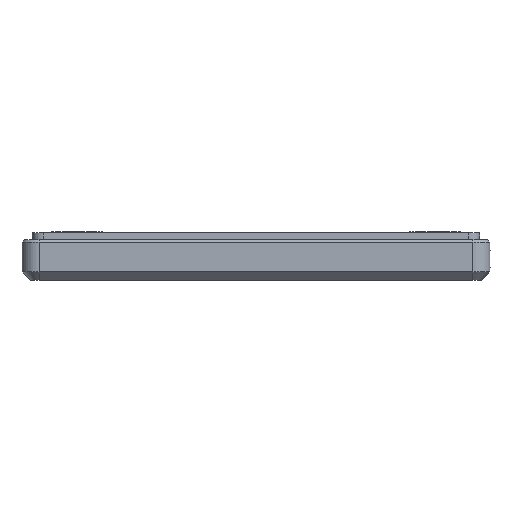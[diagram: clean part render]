
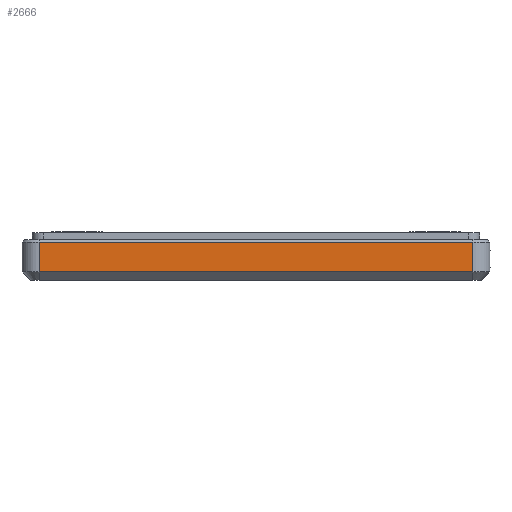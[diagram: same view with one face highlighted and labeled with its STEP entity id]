
A CAD part, left-side view. The second image highlights one B-rep face of the part: STEP entity #2666.
In plain terms, the highlighted planar face has unit normal (-1, 0, 0).
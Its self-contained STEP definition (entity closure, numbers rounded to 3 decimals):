
#277=FACE_OUTER_BOUND('',#428,.T.);
#428=EDGE_LOOP('',(#2149,#2150,#2151,#2152));
#666=LINE('',#4320,#950);
#671=LINE('',#4341,#955);
#673=LINE('',#4347,#957);
#674=LINE('',#4348,#958);
#950=VECTOR('',#3497,10.);
#955=VECTOR('',#3524,10.);
#957=VECTOR('',#3530,10.);
#958=VECTOR('',#3531,10.);
#1239=VERTEX_POINT('',#4310);
#1241=VERTEX_POINT('',#4316);
#1247=VERTEX_POINT('',#4340);
#1249=VERTEX_POINT('',#4346);
#1570=EDGE_CURVE('',#1239,#1241,#666,.T.);
#1581=EDGE_CURVE('',#1241,#1247,#671,.T.);
#1584=EDGE_CURVE('',#1239,#1249,#673,.T.);
#1585=EDGE_CURVE('',#1247,#1249,#674,.T.);
#2149=ORIENTED_EDGE('',*,*,#1570,.F.);
#2150=ORIENTED_EDGE('',*,*,#1584,.T.);
#2151=ORIENTED_EDGE('',*,*,#1585,.F.);
#2152=ORIENTED_EDGE('',*,*,#1581,.F.);
#2536=PLANE('',#2915);
#2666=ADVANCED_FACE('',(#277),#2536,.T.);
#2915=AXIS2_PLACEMENT_3D('',#4345,#3528,#3529);
#3497=DIRECTION('',(0.,1.,0.));
#3524=DIRECTION('',(0.,0.,1.));
#3528=DIRECTION('center_axis',(-1.,0.,0.));
#3529=DIRECTION('ref_axis',(0.,-1.,0.));
#3530=DIRECTION('',(0.,0.,1.));
#3531=DIRECTION('',(0.,-1.,0.));
#4310=CARTESIAN_POINT('',(-2.5,-25.5,-6.35));
#4316=CARTESIAN_POINT('',(-2.5,25.5,-6.35));
#4320=CARTESIAN_POINT('',(-2.5,12.75,-6.35));
#4340=CARTESIAN_POINT('',(-2.5,25.5,-2.84));
#4341=CARTESIAN_POINT('',(-2.5,25.5,0.));
#4345=CARTESIAN_POINT('Origin',(-2.5,25.5,0.));
#4346=CARTESIAN_POINT('',(-2.5,-25.5,-2.84));
#4347=CARTESIAN_POINT('',(-2.5,-25.5,0.));
#4348=CARTESIAN_POINT('',(-2.5,12.75,-2.84));
